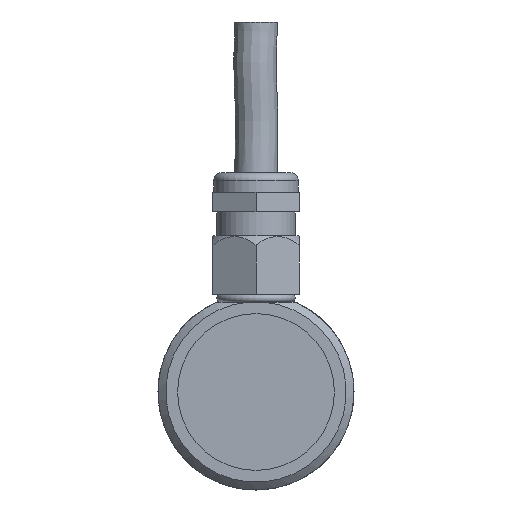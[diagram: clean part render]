
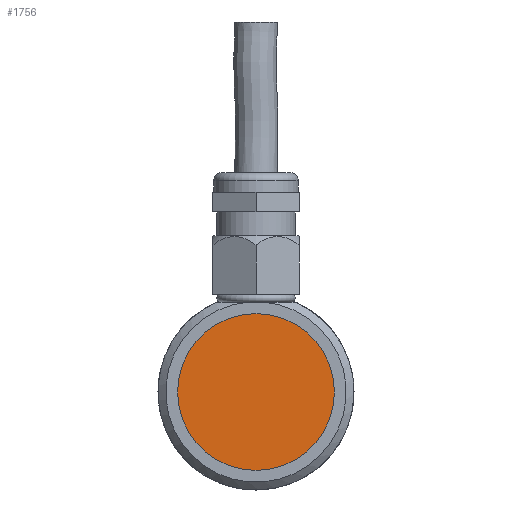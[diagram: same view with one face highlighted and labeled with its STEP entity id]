
A CAD part, left-side view. The second image highlights one B-rep face of the part: STEP entity #1756.
In plain terms, the highlighted planar face has unit normal (-1, 0, 0).
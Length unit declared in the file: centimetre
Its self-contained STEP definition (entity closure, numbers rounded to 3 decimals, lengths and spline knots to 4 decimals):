
#646=PLANE('',#1847);
#835=CIRCLE('',#1845,1.);
#901=VERTEX_POINT('',#2669);
#1056=EDGE_CURVE('',#901,#901,#835,.T.);
#1231=ORIENTED_EDGE('',*,*,#1056,.T.);
#1548=EDGE_LOOP('',(#1231));
#1656=FACE_BOUND('',#1548,.T.);
#1756=ADVANCED_FACE('',(#1656),#646,.T.);
#1845=AXIS2_PLACEMENT_3D('',#2668,#1988,#1989);
#1847=AXIS2_PLACEMENT_3D('',#2672,#1992,$);
#1988=DIRECTION('',(-1.,0.,0.));
#1989=DIRECTION('',(0.,0.,1.));
#1992=DIRECTION('',(-1.,0.,0.));
#2668=CARTESIAN_POINT('',(0.1,0.,0.));
#2669=CARTESIAN_POINT('',(0.1,0.,1.));
#2672=CARTESIAN_POINT('',(0.1,0.,0.));
